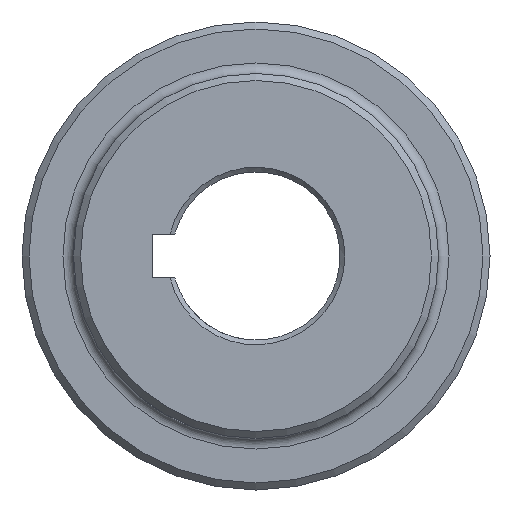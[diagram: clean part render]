
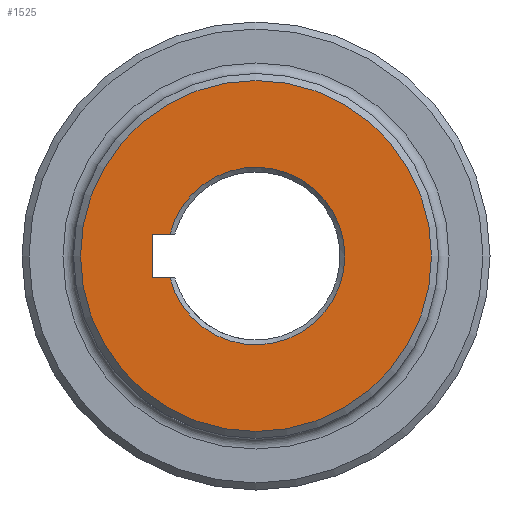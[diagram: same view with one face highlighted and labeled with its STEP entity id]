
A CAD part, left-side view. The second image highlights one B-rep face of the part: STEP entity #1525.
In plain terms, the highlighted planar face has unit normal (-1, 0, 0).
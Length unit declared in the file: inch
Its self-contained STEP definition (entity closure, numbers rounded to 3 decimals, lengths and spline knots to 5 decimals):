
#36 = LINE ( 'NONE', #1019, #186 ) ;
#38 = CARTESIAN_POINT ( 'NONE',  ( 0., 0.888, -0.1875 ) ) ;
#163 = AXIS2_PLACEMENT_3D ( 'NONE', #280, #2227, #1558 ) ;
#178 = EDGE_LOOP ( 'NONE', ( #1255 ) ) ;
#184 = CARTESIAN_POINT ( 'NONE',  ( 0., 0.888, 0.1875 ) ) ;
#186 = VECTOR ( 'NONE', #1531, 39.37008 ) ;
#217 = ORIENTED_EDGE ( 'NONE', *, *, #553, .F. ) ;
#259 = DIRECTION ( 'NONE',  ( 0., 0., -1. ) ) ;
#277 = DIRECTION ( 'NONE',  ( 0., 0., -1. ) ) ;
#280 = CARTESIAN_POINT ( 'NONE',  ( 0., 0., 0. ) ) ;
#292 = EDGE_LOOP ( 'NONE', ( #2056, #1702, #217, #1331 ) ) ;
#499 = DIRECTION ( 'NONE',  ( 0., -1., 0. ) ) ;
#509 = DIRECTION ( 'NONE',  ( -1., 0., 0. ) ) ;
#553 = EDGE_CURVE ( 'NONE', #2088, #1457, #1476, .T. ) ;
#597 = VECTOR ( 'NONE', #499, 39.37008 ) ;
#785 = DIRECTION ( 'NONE',  ( 0., 0., -1. ) ) ;
#807 = CIRCLE ( 'NONE', #1441, 1.5 ) ;
#921 = FACE_OUTER_BOUND ( 'NONE', #178, .T. ) ;
#955 = CIRCLE ( 'NONE', #2028, 0.759 ) ;
#1004 = VERTEX_POINT ( 'NONE', #184 ) ;
#1019 = CARTESIAN_POINT ( 'NONE',  ( 0., 0., 0.1875 ) ) ;
#1033 = VECTOR ( 'NONE', #259, 39.37008 ) ;
#1077 = DIRECTION ( 'NONE',  ( 1., 0., 0. ) ) ;
#1179 = CARTESIAN_POINT ( 'NONE',  ( 0., 0., -1.5 ) ) ;
#1248 = LINE ( 'NONE', #38, #1033 ) ;
#1255 = ORIENTED_EDGE ( 'NONE', *, *, #1266, .T. ) ;
#1266 = EDGE_CURVE ( 'NONE', #1895, #1895, #807, .T. ) ;
#1331 = ORIENTED_EDGE ( 'NONE', *, *, #1462, .F. ) ;
#1332 = VERTEX_POINT ( 'NONE', #2191 ) ;
#1441 = AXIS2_PLACEMENT_3D ( 'NONE', #1486, #509, #785 ) ;
#1457 = VERTEX_POINT ( 'NONE', #1655 ) ;
#1462 = EDGE_CURVE ( 'NONE', #1004, #2088, #1248, .T. ) ;
#1476 = LINE ( 'NONE', #2139, #597 ) ;
#1486 = CARTESIAN_POINT ( 'NONE',  ( 0., 0., 0. ) ) ;
#1519 = CARTESIAN_POINT ( 'NONE',  ( 0., 0., 0. ) ) ;
#1525 = ADVANCED_FACE ( 'NONE', ( #921, #1980 ), #1943, .F. ) ;
#1531 = DIRECTION ( 'NONE',  ( 0., 1., 0. ) ) ;
#1558 = DIRECTION ( 'NONE',  ( 0., 0., -1. ) ) ;
#1655 = CARTESIAN_POINT ( 'NONE',  ( 0., 0.73548, -0.1875 ) ) ;
#1702 = ORIENTED_EDGE ( 'NONE', *, *, #2142, .T. ) ;
#1895 = VERTEX_POINT ( 'NONE', #1179 ) ;
#1934 = CARTESIAN_POINT ( 'NONE',  ( 0., 0.888, -0.1875 ) ) ;
#1943 = PLANE ( 'NONE',  #163 ) ;
#1956 = EDGE_CURVE ( 'NONE', #1332, #1004, #36, .T. ) ;
#1980 = FACE_BOUND ( 'NONE', #292, .T. ) ;
#2028 = AXIS2_PLACEMENT_3D ( 'NONE', #1519, #1077, #277 ) ;
#2056 = ORIENTED_EDGE ( 'NONE', *, *, #1956, .F. ) ;
#2088 = VERTEX_POINT ( 'NONE', #1934 ) ;
#2139 = CARTESIAN_POINT ( 'NONE',  ( 0., 0., -0.1875 ) ) ;
#2142 = EDGE_CURVE ( 'NONE', #1332, #1457, #955, .T. ) ;
#2191 = CARTESIAN_POINT ( 'NONE',  ( 0., 0.73548, 0.1875 ) ) ;
#2227 = DIRECTION ( 'NONE',  ( 1., 0., 0. ) ) ;
